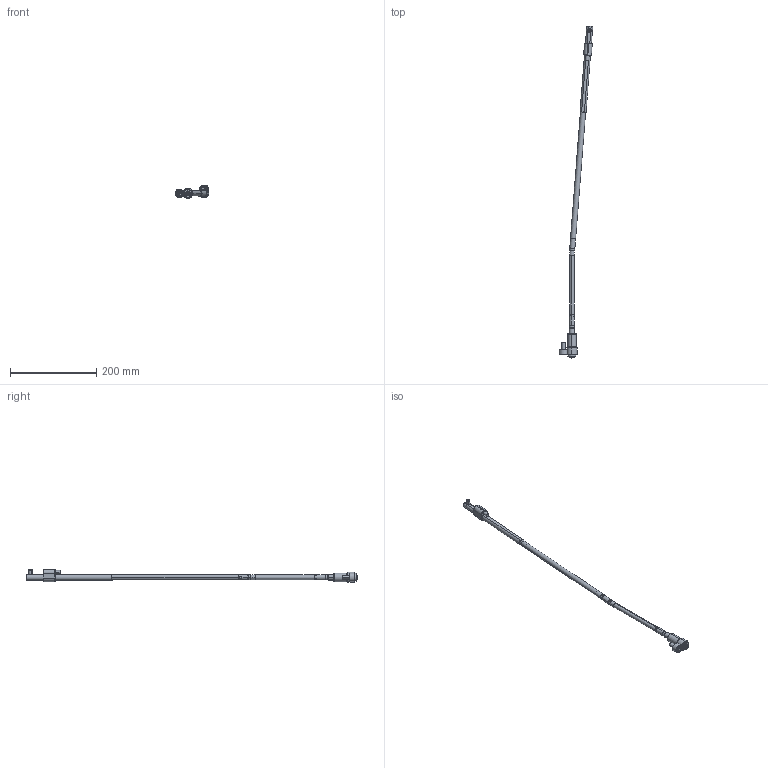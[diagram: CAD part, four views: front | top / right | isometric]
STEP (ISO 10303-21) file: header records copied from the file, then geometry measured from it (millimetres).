
FILE_DESCRIPTION (( 'STEP AP214' ), '1' );
FILE_NAME ('WL120125-INJ 4,5°.STEP', '2021-03-19T15:40:09', ( '' ), ( '' ), 'SwSTEP 2.0', 'SolidWorks 2019', '' );
FILE_SCHEMA (( 'AUTOMOTIVE_DESIGN' ));
Length unit declared in the file: millimetre
Products named in the file (17): Web-WL12-F01; WL120100-B; Web-WL12-A8; Web-WL12-A1; Web-WL12-A3; 9DR2808-TOR; WL120125-INJ 4,5°; Web-WL12-A2; Web-WL12-F00.SLDPRT; 3IMAN5X3-150_con sellador; WL120100-B1; 8WL12EJEP; 1DIN912645_DIN 912 M6 x 45 --- 45C; 1DIN912820_DIN 912 M8 x 20 --- 20C; WL120100-E; WL120100-D; Web-WL12-XX_OFF-WL120125-4,5
Assembly tree (16 placements, depth 3):
  WL120125-INJ 4,5°
    Web-WL12-A8
    Web-WL12-XX_OFF-WL120125-4,5
    Web-WL12-A3
    Web-WL12-A2
    Web-WL12-A1
    Web-WL12-F00.SLDPRT
      Web-WL12-F01
      1DIN912820_DIN 912 M8 x 20 --- 20C
      1DIN912645_DIN 912 M6 x 45 --- 45C
    WL120100-D
    8WL12EJEP
    WL120100-E
    9DR2808-TOR
    WL120100-B
      WL120100-B1
      3IMAN5X3-150_con sellador
Bounding box: 77.86 x 771.89 x 29.9 mm (x, y, z)
Volume: 116547.5 mm3; surface area: 51029.6 mm2
Topology: 15 solids, 15 shells, 432 faces, 906 edges, 525 vertices
Faces by surface type: plane 139, cylinder 123, cone 120, torus 50
Entity records: 13661 total; most frequent: DIRECTION 2240, CARTESIAN_POINT 2104, ORIENTED_EDGE 1788, AXIS2_PLACEMENT_3D 929, EDGE_CURVE 894, VERTEX_POINT 525, EDGE_LOOP 477, CIRCLE 476
